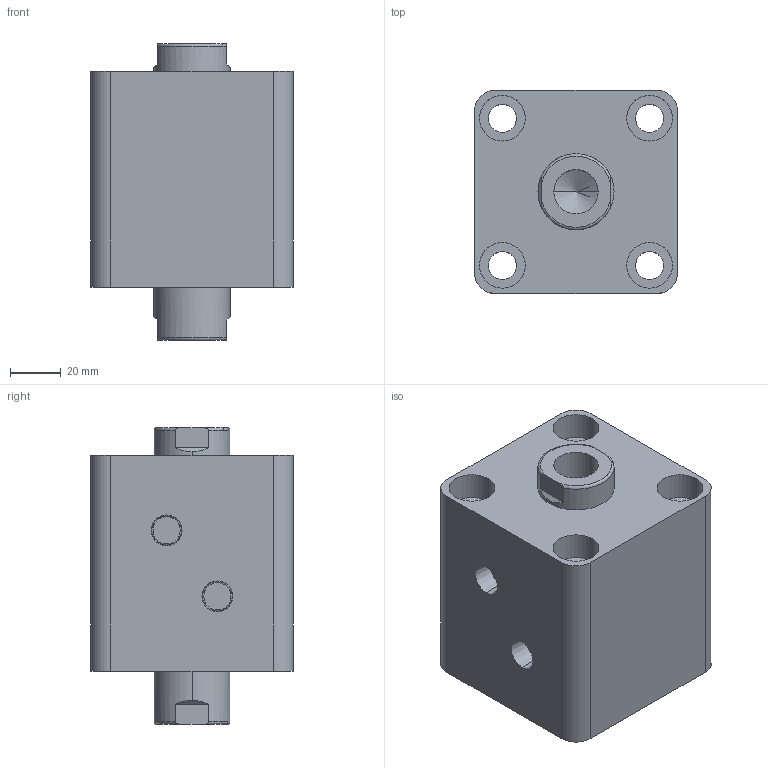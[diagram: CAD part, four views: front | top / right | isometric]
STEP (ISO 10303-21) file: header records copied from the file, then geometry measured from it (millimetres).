
FILE_DESCRIPTION (( 'STEP AP203' ), '1' );
FILE_NAME ('HTB-SW50-10N.STEP', '2019-10-07T09:16:51', ( '微软用户' ), ( '微软中国' ), 'SwSTEP 2.0', 'SolidWorks 2012', '' );
FILE_SCHEMA (( 'CONFIG_CONTROL_DESIGN' ));
Length unit declared in the file: millimetre
Products named in the file (3): HTB-SW50-10N; HTB-SW50-10N活塞杆; HTB-SW50-10掛极
Assembly tree (2 placements, depth 2):
  HTB-SW50-10N
    HTB-SW50-10掛极
    HTB-SW50-10N活塞杆
Bounding box: 80 x 80 x 117 mm (x, y, z)
Volume: 487662.5 mm3; surface area: 82375.6 mm2
Topology: 2 solids, 2 shells, 100 faces, 228 edges, 146 vertices
Faces by surface type: cylinder 48, plane 32, torus 12, cone 8
Entity records: 3237 total; most frequent: CARTESIAN_POINT 595, DIRECTION 542, ORIENTED_EDGE 448, AXIS2_PLACEMENT_3D 229, EDGE_CURVE 224, VERTEX_POINT 146, EDGE_LOOP 128, CIRCLE 124
